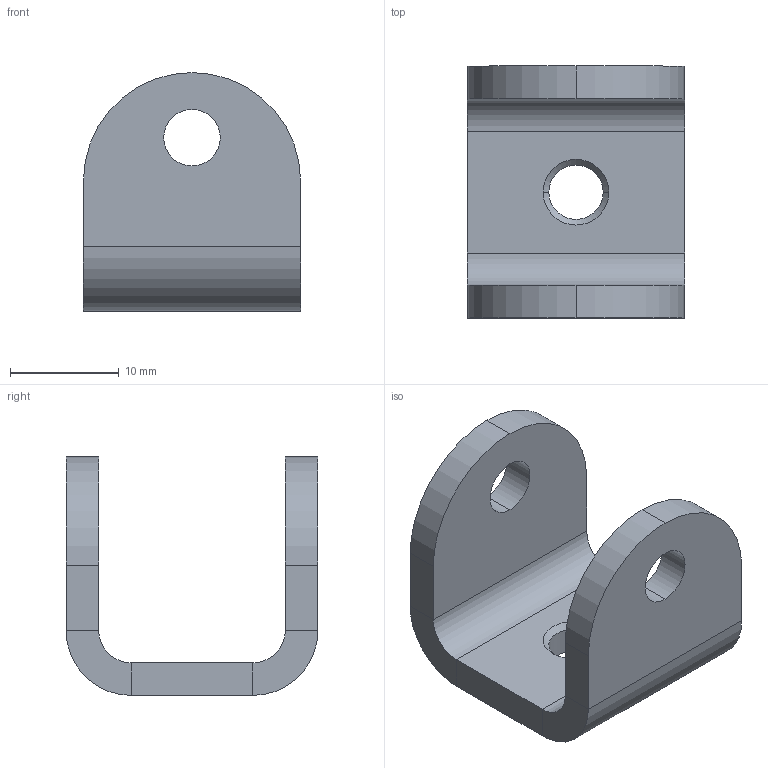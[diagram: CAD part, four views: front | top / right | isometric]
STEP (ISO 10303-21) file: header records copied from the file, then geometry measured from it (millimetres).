
FILE_DESCRIPTION (( 'STEP AP214' ), '1' );
FILE_NAME ('MAM11502 -XA- Tôle de tension 4mm - courroie XY - V3.STEP', '2024-12-18T12:16:45', ( '' ), ( '' ), 'SwSTEP 2.0', 'SolidWorks 2019', '' );
FILE_SCHEMA (( 'AUTOMOTIVE_DESIGN' ));
Length unit declared in the file: millimetre
Products named in the file (1): MAM11502 -XA- T犨e de tension 4mm - courroie XY - V3
Bounding box: 20 x 23.2 x 22 mm (x, y, z)
Volume: 2994.1 mm3; surface area: 2550.8 mm2
Topology: 1 solids, 1 shells, 32 faces, 72 edges, 42 vertices
Faces by surface type: plane 16, cylinder 14, cone 2
Entity records: 950 total; most frequent: DIRECTION 168, CARTESIAN_POINT 147, ORIENTED_EDGE 144, EDGE_CURVE 72, AXIS2_PLACEMENT_3D 63, VERTEX_POINT 42, VECTOR 42, LINE 42
